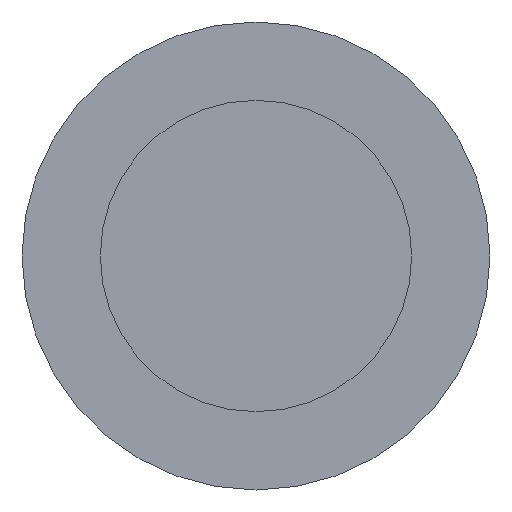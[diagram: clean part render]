
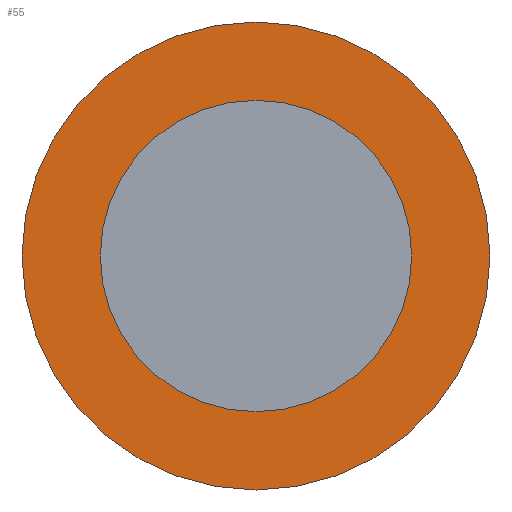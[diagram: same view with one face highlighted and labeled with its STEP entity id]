
A CAD part, left-side view. The second image highlights one B-rep face of the part: STEP entity #55.
In plain terms, the highlighted planar face has unit normal (-1, 0, 0).
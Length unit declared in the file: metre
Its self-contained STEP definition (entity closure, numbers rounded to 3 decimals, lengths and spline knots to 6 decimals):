
#13=PLANE('',#75);
#18=ORIENTED_EDGE('',*,*,#25,.F.);
#19=ORIENTED_EDGE('',*,*,#24,.T.);
#24=EDGE_CURVE('',#28,#28,#32,.T.);
#25=EDGE_CURVE('',#29,#29,#33,.T.);
#28=VERTEX_POINT('',#105);
#29=VERTEX_POINT('',#109);
#32=CIRCLE('',#73,0.00241);
#33=CIRCLE('',#76,0.001603);
#38=EDGE_LOOP('',(#18));
#39=EDGE_LOOP('',(#19));
#46=FACE_BOUND('',#38,.T.);
#47=FACE_BOUND('',#39,.T.);
#55=ADVANCED_FACE('',(#46,#47),#13,.T.);
#73=AXIS2_PLACEMENT_3D('',#104,#86,#87);
#75=AXIS2_PLACEMENT_3D('',#107,#90,#91);
#76=AXIS2_PLACEMENT_3D('',#108,#92,#93);
#86=DIRECTION('',(-1.,0.,0.));
#87=DIRECTION('',(0.,0.,1.));
#90=DIRECTION('',(-1.,0.,0.));
#91=DIRECTION('',(0.,-1.,0.));
#92=DIRECTION('',(-1.,0.,0.));
#93=DIRECTION('',(0.,0.,1.));
#104=CARTESIAN_POINT('',(-0.03988,-0.190483,0.208508));
#105=CARTESIAN_POINT('',(-0.03988,-0.190483,0.210917));
#107=CARTESIAN_POINT('',(-0.03988,-0.208082,0.107135));
#108=CARTESIAN_POINT('',(-0.03988,-0.190483,0.208508));
#109=CARTESIAN_POINT('',(-0.03988,-0.190483,0.210111));
